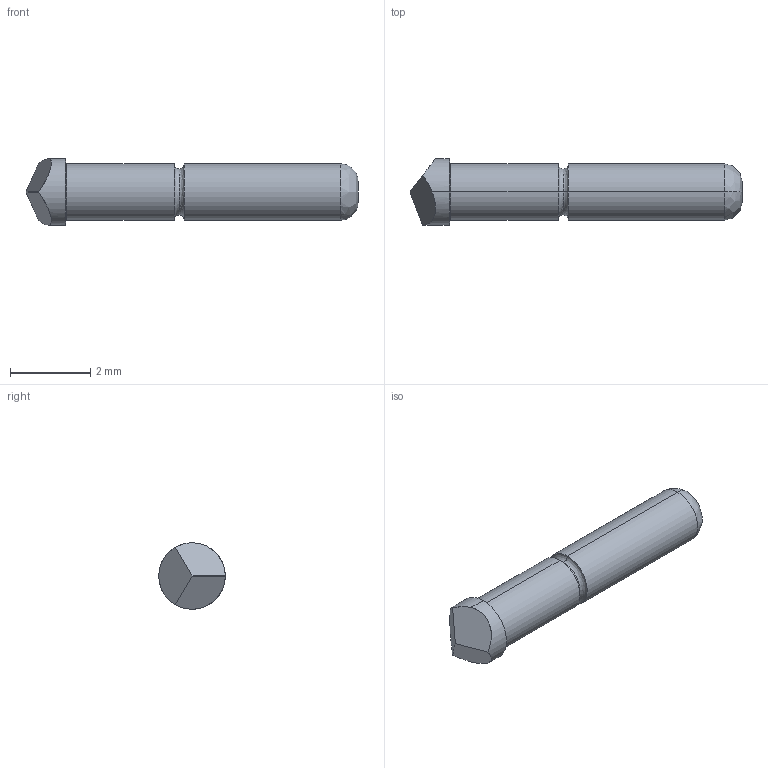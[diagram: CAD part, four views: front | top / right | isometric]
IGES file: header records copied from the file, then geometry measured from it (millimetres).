
Start section: SolidWorks IGES file using analytic representation for surfaces
Global section: file name: Z:\probe solid model mockups\Solidworks models\IGES Files\HPA-64\HPA-64-4 RECD.IGS; native system: SolidWorks 2006 by SolidWorks Corporation; preprocessor: SolidWorks 2006 by SolidWorks Corporation; author: tsakatani; date: 071220.100301; units: inch
Bounding box: 8.26 x 1.65 x 1.65 mm (x, y, z)
Surface area: 39.3 mm2 (no closed solid volume)
Topology: 0 solids, 0 shells, 19 faces, 154 edges, 154 vertices
Faces by surface type: bspline 11, revolution 8
